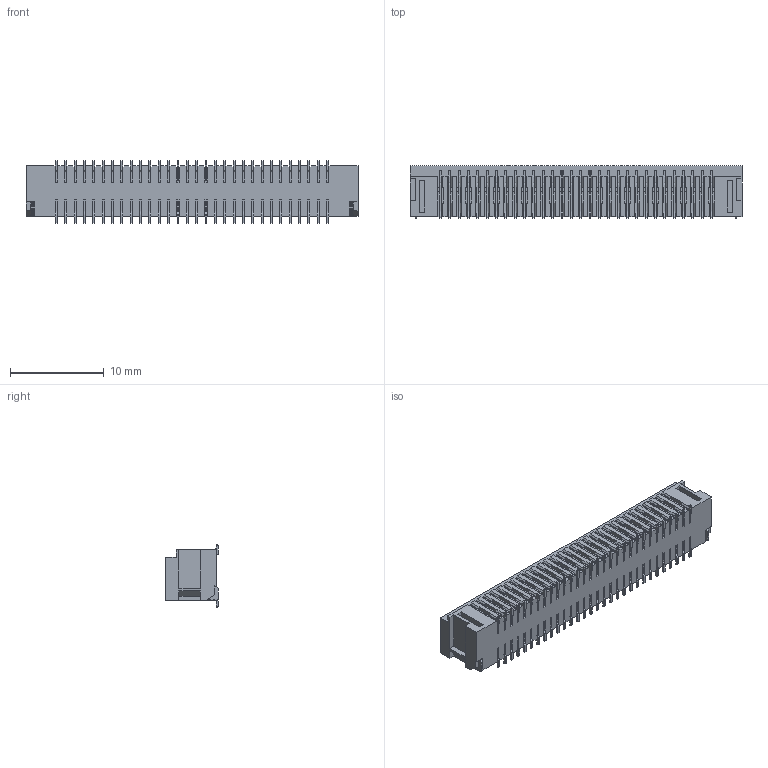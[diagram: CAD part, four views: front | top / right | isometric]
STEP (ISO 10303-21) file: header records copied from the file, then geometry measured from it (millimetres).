
FILE_DESCRIPTION(/* description */ (''),/* implementation_level */ '2;1');
FILE_NAME(/* name */ 'HC-SH25-2x30PWT-05 _1.00 双排 带扣 卧贴-HCTL__step.stp',/* time_stamp */ '2026-10-21T10:50:21+08:00',/* author */ (''),/* organization */ (''),/* preprocessor_version */ 'ST-DEVELOPER v16',/* originating_system */ 'SIEMENS PLM Software NX 10.0',/* authorisation */ '');
FILE_SCHEMA (('AUTOMOTIVE_DESIGN { 1 0 10303 214 3 1 1 1 }'));
Products named in the file (1): HC-SH25-2x10PWT-05 _1.00  双排 带扣 
卧贴-HCTL__step
Bounding box: 35.5 x 5.6 x 6.7 mm (x, y, z)
Volume: 688.7 mm3; surface area: 3108.9 mm2
Topology: 3 solids, 3 shells, 5637 faces, 17138 edges, 11300 vertices
Faces by surface type: plane 4031, cylinder 1606
Entity records: 191146 total; most frequent: ORIENTED_EDGE 34276, CARTESIAN_POINT 34184, DIRECTION 31590, EDGE_CURVE 17138, LINE 13890, VECTOR 13890, VERTEX_POINT 11300, AXIS2_PLACEMENT_3D 8850
